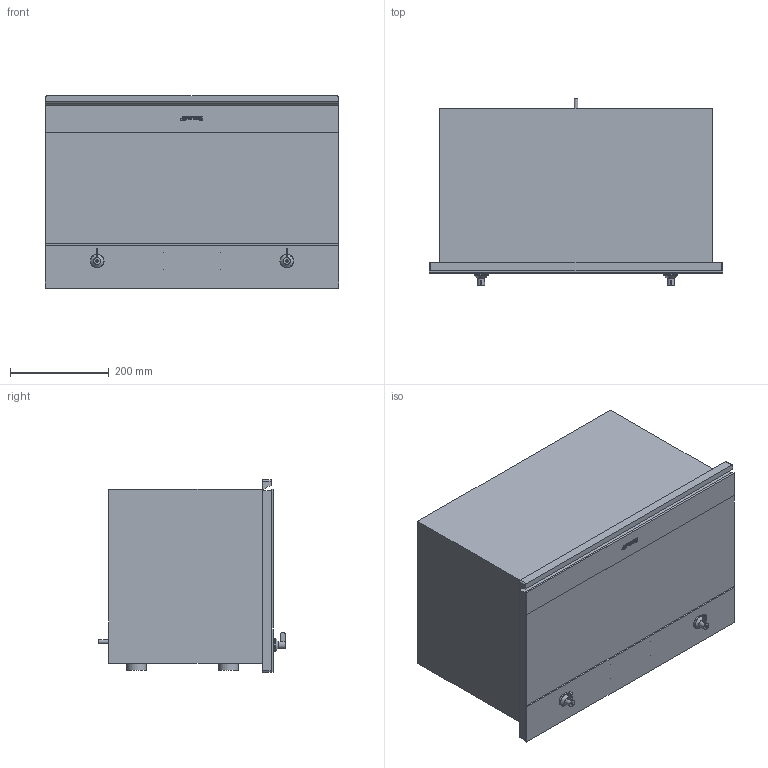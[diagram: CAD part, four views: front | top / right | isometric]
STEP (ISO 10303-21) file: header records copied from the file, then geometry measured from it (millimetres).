
FILE_DESCRIPTION(/* description */ (''),/* implementation_level */ '2;1');
FILE_NAME(/* name */ 'forno mw mp322x1.stp',/* time_stamp */ '2019-05-20T17:27:09+02:00',/* author */ (''),/* organization */ (''),/* preprocessor_version */ 'ST-DEVELOPER v16',/* originating_system */ 'SIEMENS PLM Software NX 11.0',/* authorisation */ '');
FILE_SCHEMA (('AUTOMOTIVE_DESIGN { 1 0 10303 214 3 1 1 1 }'));
Length unit declared in the file: millimetre
Products named in the file (1): gobb2480B88Dsjhn
Bounding box: 595 x 378.62 x 390 mm (x, y, z)
Volume: 65973103.7 mm3; surface area: 2011358.9 mm2
Topology: 20 solids, 20 shells, 162 faces, 337 edges, 224 vertices
Faces by surface type: plane 107, cylinder 42, extrusion 11, cone 2
Full cylindrical faces by diameter (mm): 3.988 x6, 5 x2, 8 x1, 14 x2, 15 x2, 22 x2, 28 x2, 40 x4
Entity records: 4559 total; most frequent: CARTESIAN_POINT 999, DIRECTION 691, ORIENTED_EDGE 622, EDGE_CURVE 311, AXIS2_PLACEMENT_3D 240, VERTEX_POINT 222, VECTOR 211, EDGE_LOOP 203
